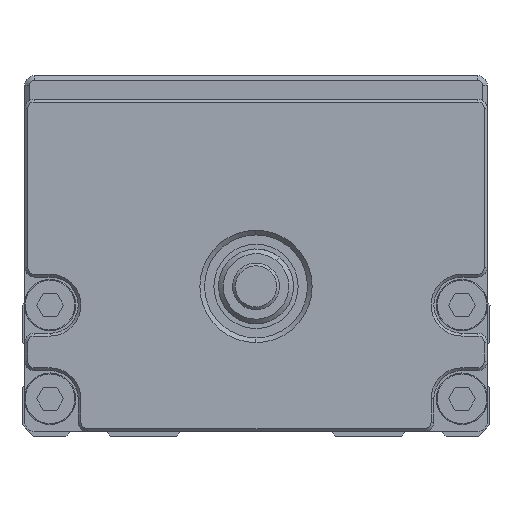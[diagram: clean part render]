
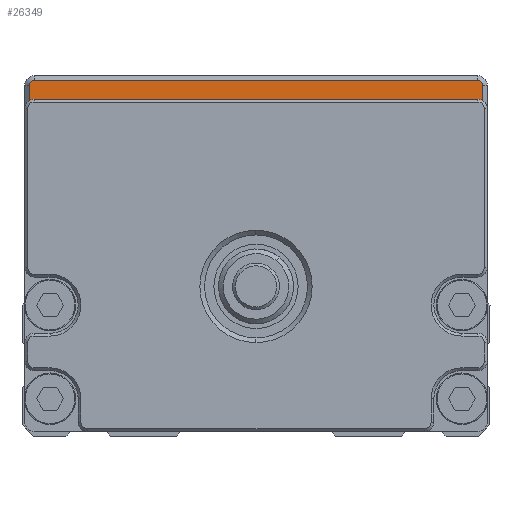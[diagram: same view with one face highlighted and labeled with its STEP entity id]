
A CAD part, front view. The second image highlights one B-rep face of the part: STEP entity #26349.
In plain terms, the highlighted planar face has unit normal (0, -1, 0) as drawn and (0, 1, 0) by its records, which use the part's own axes.
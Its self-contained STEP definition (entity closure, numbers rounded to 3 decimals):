
#172 = AXIS2_PLACEMENT_3D ( 'NONE', #5961, #22257, #3502 ) ;
#760 = EDGE_CURVE ( 'NONE', #11636, #19567, #29548, .T. ) ;
#2639 = VECTOR ( 'NONE', #13218, 1000. ) ;
#3502 = DIRECTION ( 'NONE',  ( 0., 0., -1. ) ) ;
#3759 = CARTESIAN_POINT ( 'NONE',  ( 23.7, -10., 35. ) ) ;
#3879 = DIRECTION ( 'NONE',  ( 0., 0., 1. ) ) ;
#4286 = VERTEX_POINT ( 'NONE', #26661 ) ;
#5014 = DIRECTION ( 'NONE',  ( 1., 0., 0. ) ) ;
#5140 = CIRCLE ( 'NONE', #28308, 0.5 ) ;
#5961 = CARTESIAN_POINT ( 'NONE',  ( -23.7, -10., 35. ) ) ;
#6123 = DIRECTION ( 'NONE',  ( 0., 0., -1. ) ) ;
#6519 = CIRCLE ( 'NONE', #172, 1. ) ;
#6527 = EDGE_LOOP ( 'NONE', ( #7652, #13866, #15506, #18374, #16441, #26227, #20513, #15681 ) ) ;
#7652 = ORIENTED_EDGE ( 'NONE', *, *, #20705, .F. ) ;
#7910 = AXIS2_PLACEMENT_3D ( 'NONE', #3759, #19894, #6123 ) ;
#8129 = VECTOR ( 'NONE', #11874, 1000. ) ;
#8622 = AXIS2_PLACEMENT_3D ( 'NONE', #28655, #16994, #17196 ) ;
#8692 = DIRECTION ( 'NONE',  ( 0., 0., -1. ) ) ;
#9402 = VERTEX_POINT ( 'NONE', #13700 ) ;
#9533 = CARTESIAN_POINT ( 'NONE',  ( 23.7, -10., 38. ) ) ;
#9625 = CARTESIAN_POINT ( 'NONE',  ( -24.2, -10., 35.866 ) ) ;
#10013 = DIRECTION ( 'NONE',  ( 0., 1., 0. ) ) ;
#10486 = EDGE_CURVE ( 'NONE', #4286, #19567, #18631, .T. ) ;
#10666 = EDGE_CURVE ( 'NONE', #15343, #29840, #22054, .T. ) ;
#11195 = VECTOR ( 'NONE', #5014, 1000. ) ;
#11510 = EDGE_CURVE ( 'NONE', #29840, #11636, #17233, .T. ) ;
#11636 = VERTEX_POINT ( 'NONE', #22017 ) ;
#11717 = CARTESIAN_POINT ( 'NONE',  ( 24.2, -10., 35.866 ) ) ;
#11874 = DIRECTION ( 'NONE',  ( 1., 0., 0. ) ) ;
#11969 = CARTESIAN_POINT ( 'NONE',  ( 23.7, -10., 36. ) ) ;
#12453 = FACE_OUTER_BOUND ( 'NONE', #6527, .T. ) ;
#12458 = PLANE ( 'NONE',  #8622 ) ;
#12502 = CARTESIAN_POINT ( 'NONE',  ( -24.2, -10., 37.5 ) ) ;
#12694 = CARTESIAN_POINT ( 'NONE',  ( -23.7, -10., 36. ) ) ;
#13218 = DIRECTION ( 'NONE',  ( 0., 0., 1. ) ) ;
#13700 = CARTESIAN_POINT ( 'NONE',  ( -24.2, -10., 37.5 ) ) ;
#13866 = ORIENTED_EDGE ( 'NONE', *, *, #18133, .T. ) ;
#14991 = LINE ( 'NONE', #11969, #8129 ) ;
#15343 = VERTEX_POINT ( 'NONE', #19862 ) ;
#15506 = ORIENTED_EDGE ( 'NONE', *, *, #27343, .T. ) ;
#15549 = CARTESIAN_POINT ( 'NONE',  ( 24.2, -10., 35. ) ) ;
#15681 = ORIENTED_EDGE ( 'NONE', *, *, #25758, .F. ) ;
#15698 = AXIS2_PLACEMENT_3D ( 'NONE', #17824, #22361, #3879 ) ;
#16148 = VECTOR ( 'NONE', #8692, 1000. ) ;
#16441 = ORIENTED_EDGE ( 'NONE', *, *, #11510, .T. ) ;
#16556 = CARTESIAN_POINT ( 'NONE',  ( 23.7, -10., 38. ) ) ;
#16700 = CARTESIAN_POINT ( 'NONE',  ( -23.7, -10., 37.5 ) ) ;
#16994 = DIRECTION ( 'NONE',  ( 0., 1., 0. ) ) ;
#17196 = DIRECTION ( 'NONE',  ( 0., 0., -1. ) ) ;
#17233 = CIRCLE ( 'NONE', #15698, 0.5 ) ;
#17824 = CARTESIAN_POINT ( 'NONE',  ( 23.7, -10., 37.5 ) ) ;
#18133 = EDGE_CURVE ( 'NONE', #29772, #9402, #25726, .T. ) ;
#18374 = ORIENTED_EDGE ( 'NONE', *, *, #10666, .T. ) ;
#18631 = CIRCLE ( 'NONE', #7910, 1. ) ;
#19300 = DIRECTION ( 'NONE',  ( 0., 0., 1. ) ) ;
#19567 = VERTEX_POINT ( 'NONE', #11717 ) ;
#19862 = CARTESIAN_POINT ( 'NONE',  ( -23.7, -10., 38. ) ) ;
#19894 = DIRECTION ( 'NONE',  ( 0., 1., 0. ) ) ;
#20513 = ORIENTED_EDGE ( 'NONE', *, *, #10486, .F. ) ;
#20705 = EDGE_CURVE ( 'NONE', #29772, #23467, #6519, .T. ) ;
#22017 = CARTESIAN_POINT ( 'NONE',  ( 24.2, -10., 37.5 ) ) ;
#22054 = LINE ( 'NONE', #16556, #11195 ) ;
#22257 = DIRECTION ( 'NONE',  ( 0., 1., 0. ) ) ;
#22361 = DIRECTION ( 'NONE',  ( 0., 1., 0. ) ) ;
#23467 = VERTEX_POINT ( 'NONE', #12694 ) ;
#25726 = LINE ( 'NONE', #12502, #2639 ) ;
#25758 = EDGE_CURVE ( 'NONE', #23467, #4286, #14991, .T. ) ;
#26227 = ORIENTED_EDGE ( 'NONE', *, *, #760, .T. ) ;
#26349 = ADVANCED_FACE ( 'NONE', ( #12453 ), #12458, .T. ) ;
#26661 = CARTESIAN_POINT ( 'NONE',  ( 23.7, -10., 36. ) ) ;
#27343 = EDGE_CURVE ( 'NONE', #9402, #15343, #5140, .T. ) ;
#28308 = AXIS2_PLACEMENT_3D ( 'NONE', #16700, #10013, #19300 ) ;
#28655 = CARTESIAN_POINT ( 'NONE',  ( -23.7, -10., 37.5 ) ) ;
#29548 = LINE ( 'NONE', #15549, #16148 ) ;
#29772 = VERTEX_POINT ( 'NONE', #9625 ) ;
#29840 = VERTEX_POINT ( 'NONE', #9533 ) ;
